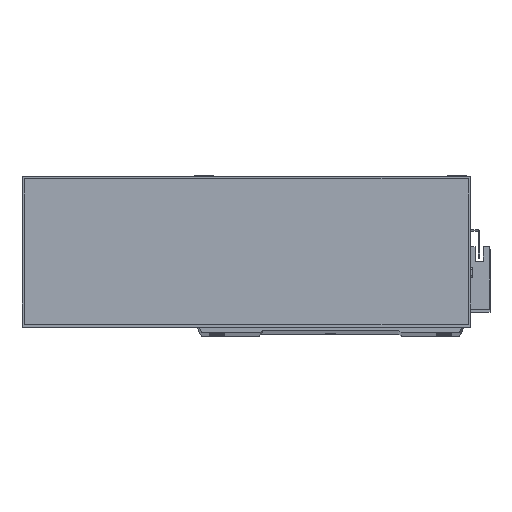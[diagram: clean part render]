
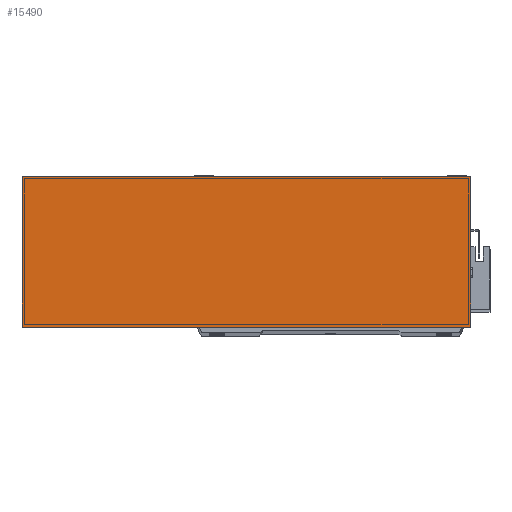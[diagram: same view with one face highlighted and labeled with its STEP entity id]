
A CAD part, top view. The second image highlights one B-rep face of the part: STEP entity #15490.
In plain terms, the highlighted planar face has unit normal (0, 0, 1).
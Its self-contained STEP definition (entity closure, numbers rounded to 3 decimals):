
#582 = EDGE_CURVE ( 'NONE', #12019, #4543, #19668, .T. ) ;
#855 = CARTESIAN_POINT ( 'NONE',  ( 0., 93., 50. ) ) ;
#1128 = DIRECTION ( 'NONE',  ( 0., 0., -1. ) ) ;
#1331 = VECTOR ( 'NONE', #3746, 1000. ) ;
#2058 = LINE ( 'NONE', #22105, #1331 ) ;
#2725 = LINE ( 'NONE', #26706, #18875 ) ;
#2857 = EDGE_CURVE ( 'NONE', #4543, #25741, #11041, .T. ) ;
#3746 = DIRECTION ( 'NONE',  ( 0., -1., 0. ) ) ;
#4136 = CARTESIAN_POINT ( 'NONE',  ( 277., 93., 50. ) ) ;
#4543 = VERTEX_POINT ( 'NONE', #4136 ) ;
#6786 = DIRECTION ( 'NONE',  ( 0., 1., 0. ) ) ;
#6811 = VECTOR ( 'NONE', #6786, 1000. ) ;
#8828 = FACE_OUTER_BOUND ( 'NONE', #27688, .T. ) ;
#10276 = ORIENTED_EDGE ( 'NONE', *, *, #24344, .T. ) ;
#11041 = LINE ( 'NONE', #855, #22451 ) ;
#11568 = CARTESIAN_POINT ( 'NONE',  ( 0., 0., 50. ) ) ;
#12019 = VERTEX_POINT ( 'NONE', #23248 ) ;
#12479 = DIRECTION ( 'NONE',  ( -1., 0., 0. ) ) ;
#12645 = CARTESIAN_POINT ( 'NONE',  ( 0., 0., 50. ) ) ;
#13422 = CARTESIAN_POINT ( 'NONE',  ( 277., 0., 50. ) ) ;
#14079 = ORIENTED_EDGE ( 'NONE', *, *, #2857, .T. ) ;
#14950 = PLANE ( 'NONE',  #25524 ) ;
#15490 = ADVANCED_FACE ( 'NONE', ( #8828 ), #14950, .F. ) ;
#16433 = CARTESIAN_POINT ( 'NONE',  ( 0., 93., 50. ) ) ;
#17221 = DIRECTION ( 'NONE',  ( -1., 0., 0. ) ) ;
#18296 = ORIENTED_EDGE ( 'NONE', *, *, #26066, .T. ) ;
#18875 = VECTOR ( 'NONE', #29042, 1000. ) ;
#19668 = LINE ( 'NONE', #13422, #6811 ) ;
#20789 = VERTEX_POINT ( 'NONE', #11568 ) ;
#22105 = CARTESIAN_POINT ( 'NONE',  ( 0., 0., 50. ) ) ;
#22451 = VECTOR ( 'NONE', #12479, 1000. ) ;
#23248 = CARTESIAN_POINT ( 'NONE',  ( 277., 0., 50. ) ) ;
#24344 = EDGE_CURVE ( 'NONE', #25741, #20789, #2058, .T. ) ;
#25524 = AXIS2_PLACEMENT_3D ( 'NONE', #12645, #1128, #17221 ) ;
#25741 = VERTEX_POINT ( 'NONE', #16433 ) ;
#26066 = EDGE_CURVE ( 'NONE', #20789, #12019, #2725, .T. ) ;
#26706 = CARTESIAN_POINT ( 'NONE',  ( 0., 0., 50. ) ) ;
#27688 = EDGE_LOOP ( 'NONE', ( #10276, #18296, #29699, #14079 ) ) ;
#29042 = DIRECTION ( 'NONE',  ( 1., 0., 0. ) ) ;
#29699 = ORIENTED_EDGE ( 'NONE', *, *, #582, .T. ) ;
